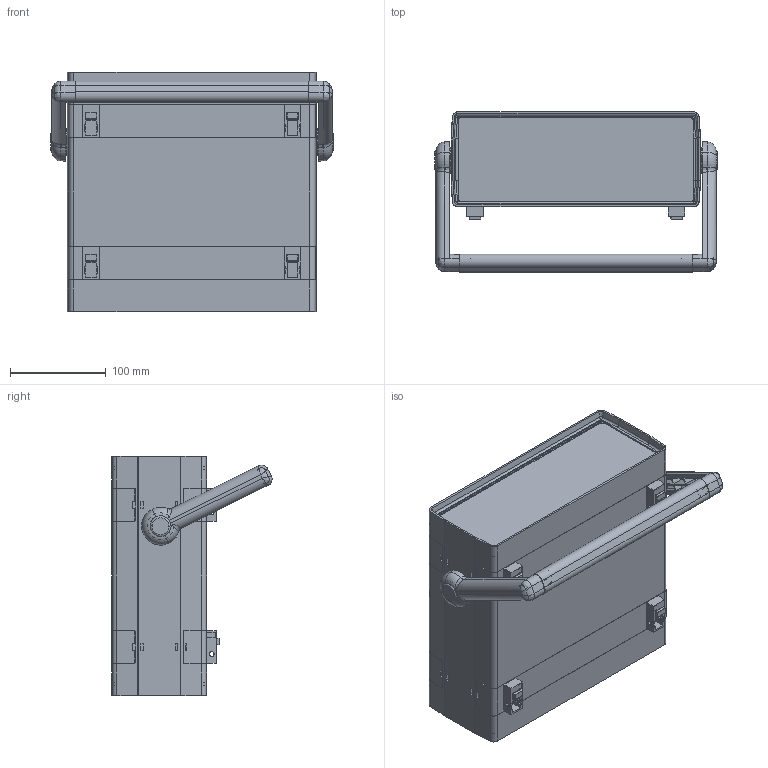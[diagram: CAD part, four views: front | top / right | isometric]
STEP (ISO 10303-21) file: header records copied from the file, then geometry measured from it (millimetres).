
FILE_DESCRIPTION (( 'STEP AP214' ), '1' );
FILE_NAME ('ES-20 W handle.STEP', '2020-09-06T20:26:54', ( 'Rudy' ), ( '' ), 'SwSTEP 2.0', 'SolidWorks 2014', '' );
FILE_SCHEMA (( 'AUTOMOTIVE_DESIGN' ));
Length unit declared in the file: inch
Products named in the file (13): WTL Handle Assembly; Handle ; Handle Button; Handle Locator; WTL Handle; Connector Long; EPS-20; AET-004; Rubber foot; AET-016; AET-006; 10 inch Euro Tech; ES-20 W handle
Assembly tree (21 placements, depth 4):
  ES-20 W handle
    10 inch Euro Tech  x2
    AET-006  x2
    AET-016  x2
    Rubber foot  x4
    AET-004  x2
    EPS-20  x2
    WTL Handle Assembly
      Connector Long
      Handle   x2
        WTL Handle
        Handle Locator
        Handle Button
Bounding box: 295.11 x 167.49 x 250.19 mm (x, y, z)
Volume: 877089.6 mm3; surface area: 773750.5 mm2
Topology: 35 solids, 35 shells, 6548 faces, 18146 edges, 11894 vertices
Faces by surface type: plane 5008, cylinder 878, cone 338, torus 196, bspline 68, sphere 60
Entity records: 105177 total; most frequent: CARTESIAN_POINT 21243, ORIENTED_EDGE 17884, DIRECTION 16411, EDGE_CURVE 8942, VECTOR 6649, LINE 6649, VERTEX_POINT 5893, AXIS2_PLACEMENT_3D 4881
